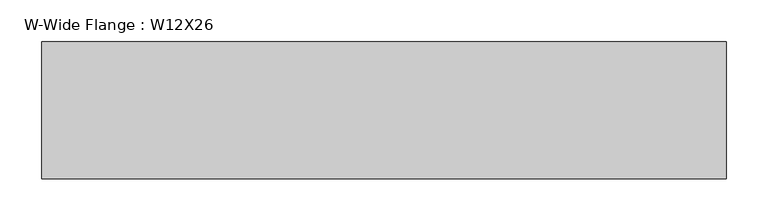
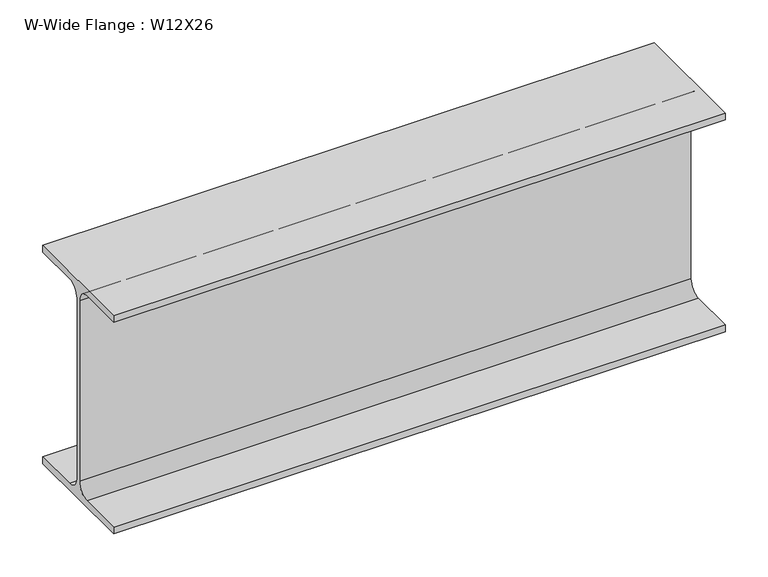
"""IFC4 building model written with IfcOpenShell, lengths in millimetres: beam geometry, W-Wide Flange : W12X26."""

from ifc_helpers import new_model, si_unit, point, frame, frame_2d, origin, place, context, project, spatial, polyline, circle_curve, trimmed, segment, composite_curve, outline, extrude, source, transform, mapped, element, save


def w_wide_flange_w12x26_7fa1df94(model_context):
    return source(origin(), model_context, "Body", "SweptSolid", [
        extrude(outline(composite_curve([segment(polyline([(-82.4011719, -145.5539063), (-20.2902344, -145.5539063)]), True, "CONTINUOUS"), segment(trimmed(circle_curve(frame_2d((-20.2902344, -128.190625)), 17.3632812), [point((-20.2902344, -145.5539063))], [point((-2.9269531, -128.190625))], True, "CARTESIAN"), True, "CONTINUOUS"), segment(polyline([(-2.9269531, -128.190625), (-2.9269531, 128.190625)]), True, "CONTINUOUS"), segment(trimmed(circle_curve(frame_2d((-20.2902344, 128.190625)), 17.3632812), [point((-2.9269531, 128.190625))], [point((-20.2902344, 145.5539062))], True, "CARTESIAN"), True, "CONTINUOUS"), segment(polyline([(-20.2902344, 145.5539062), (-82.4011719, 145.5539062), (-82.4011719, 155.178125), (82.4011719, 155.178125), (82.4011719, 145.5539062), (20.2902344, 145.5539062)]), True, "CONTINUOUS"), segment(trimmed(circle_curve(frame_2d((20.2902344, 128.190625)), 17.3632812), [point((20.2902344, 145.5539062))], [point((2.9269531, 128.190625))], True, "CARTESIAN"), True, "CONTINUOUS"), segment(polyline([(2.9269531, 128.190625), (2.9269531, -128.190625)]), True, "CONTINUOUS"), segment(trimmed(circle_curve(frame_2d((20.2902344, -128.190625)), 17.3632812), [point((2.9269531, -128.190625))], [point((20.2902344, -145.5539063))], True, "CARTESIAN"), True, "CONTINUOUS"), segment(polyline([(20.2902344, -145.5539063), (82.4011719, -145.5539063), (82.4011719, -155.178125), (-82.4011719, -155.178125), (-82.4011719, -145.5539063)]), True, "CONTINUOUS")], self_intersect=False)), frame((-282.575, 0.0, 0.0), z_axis=(1.0, 0.0, 0.0), x_axis=(0.0, 1.0, 0.0)), (0.0, 0.0, 1.0), 822.1761719),
    ])


if __name__ == "__main__":
    model = new_model("IFC4")
    model_context = context("Model", 3, world=origin())
    ifc_project = project(units=[si_unit("LENGTHUNIT", "METRE", prefix="MILLI")], contexts=[model_context])
    site = spatial("IfcSite", under=ifc_project)
    building = spatial("IfcBuilding", under=site)
    placement = place(None, origin())
    w_wide_flange_w12x26_shape = w_wide_flange_w12x26_7fa1df94(model_context)
    element("IfcBeam", 1, ObjectType="W-Wide Flange : W12X26", at=placement, inside=building, context=model_context, shape_type="MappedRepresentation", body=[
        mapped(w_wide_flange_w12x26_shape, transform((0.0, 0.0, 0.0), x_axis=(1.0, 0.0, 0.0), y_axis=(0.0, 1.0, 0.0), z_axis=(0.0, 0.0, 1.0))),
    ])
    save(model, "model.ifc")
